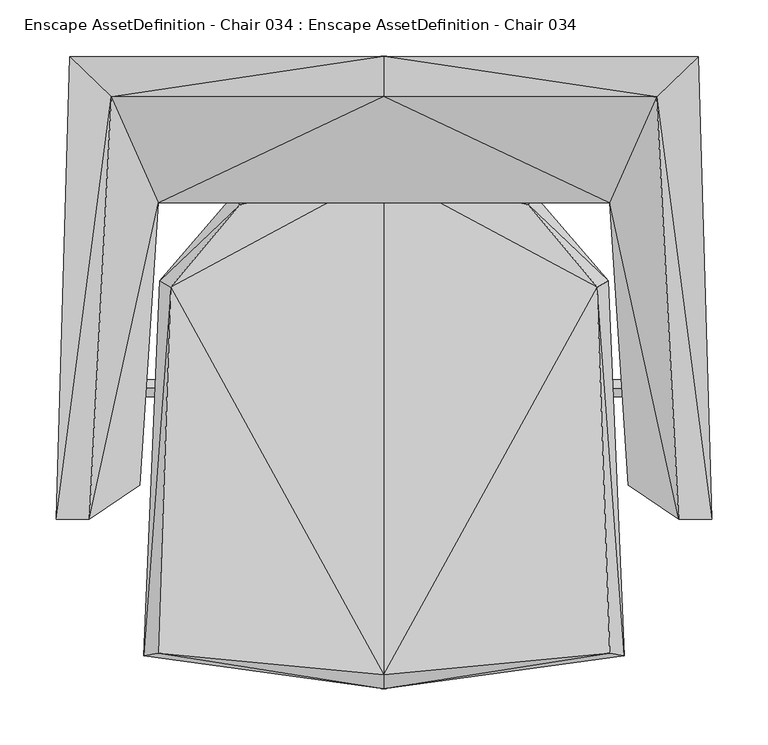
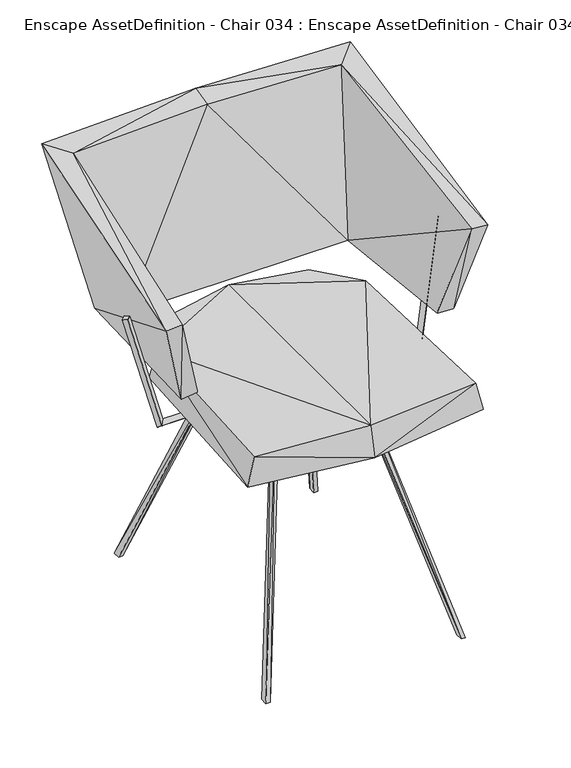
"""IFC4 building model written with IfcOpenShell, lengths in millimetres: geographic element geometry, Enscape AssetDefinition - Chair 034 : Enscape AssetDefinition - Chair 034."""

from ifc_helpers import new_model, si_unit, origin, place, context, project, spatial, triangles, source, transform, mapped, element, save


def enscape_assetdefinition_chair_034_enscape_assetdefinition_23db250a(model_context):
    return source(origin(), model_context, "Body", "Tessellation", [
        triangles([(128.4109937, 163.0650104, 480.3420104), (-189.6599895, 89.9270055, 482.3930117), (0.0, 191.7660019, 479.0729745), (201.0419982, -235.8320077, 479.2829907), (189.6599895, 89.9270055, 482.3930117), (213.6310009, -237.997991, 425.9890054), (0.0, -267.3630046, 425.8819988), (0.0, -254.892999, 480.2840198), (-201.0419982, -235.8320077, 479.2829907), (-213.6310009, -237.997991, 425.9890054), (199.4599909, 95.7430022, 428.5239887), (-128.4109937, 163.0650104, 480.3420104), (-199.4599909, 95.7430022, 428.5239887), (-133.390995, 172.6999964, 426.7540023), (0.0, 198.9230142, 425.8030066), (133.390995, 172.6999964, 426.7540023), (247.8179948, -86.8439996, 518.4469883), (262.2379904, -116.7860038, 681.7549707), (291.7009812, -116.4589979, 679.1200298), (218.2630038, -86.9129998, 520.8670077), (217.271004, -86.2420015, 517.2730047), (246.8270124, -86.1800049, 514.8520042), (200.6669848, 164.8239873, 510.9639785), (237.514009, 201.8090117, 510.9639785), (0.0, 295.3810073, 793.2059441), (279.5610064, 295.0069931, 784.329015), (242.6689995, 259.3060109, 775.0319807), (0.0, 201.7480053, 510.9620164), (0.0, 259.680988, 783.9090551), (0.0, 164.8609945, 510.9620164), (-291.7009812, -116.4589979, 679.1200298), (-237.514009, 201.8090117, 510.9639785), (-246.8270124, -86.1800049, 514.8520042), (-200.6669848, 164.8239873, 510.9639785), (-279.5610064, 295.0069931, 784.329015), (-242.6689995, 259.3060109, 775.0319807), (-217.271004, -86.2420015, 517.2730047), (-218.2630038, -86.9129998, 520.8670077), (-247.8179948, -86.8439996, 518.4469883), (-262.2379904, -116.7860038, 681.7549707), (180.8810014, -237.9740099, 0.0), (173.217988, -224.7000019, 0.0), (180.8829998, -224.6980034, 0.0), (85.6380049, -86.2780004, 395.6410031), (83.0499998, -95.9369948, 408.4479976), (173.2150085, -237.9750092, 0.0), (85.6380049, 86.2780004, 395.6410031), (78.1519975, -86.6690012, 393.9769695), (78.1519975, 86.6690012, 393.9769695), (173.217988, 224.7000019, 0.0), (75.496005, -95.9309995, 407.0590199), (75.496005, 95.9309995, 407.0590199), (83.0499998, 95.9369948, 408.4479976), (173.2150085, 237.9750092, 0.0), (180.8829998, 224.6980034, 0.0), (180.8810014, 237.9740099, 0.0), (-75.496005, 95.9309995, 407.0590199), (-83.0499998, 95.9369948, 408.4479976), (-78.1519975, 86.6690012, 393.9769695), (-75.496005, -95.9309995, 407.0590199), (-173.2150085, 237.9750092, 0.0), (-180.8810014, 237.9740099, 0.0), (-78.1519975, -86.6690012, 393.9769695), (-85.6380049, -86.2780004, 395.6410031), (-180.8829998, 224.6980034, 0.0), (-85.6380049, 86.2780004, 395.6410031), (-173.217988, -224.7000019, 0.0), (-173.2150085, -237.9750092, 0.0), (-180.8810014, -237.9740099, 0.0), (-83.0499998, -95.9369948, 408.4479976), (-180.8829998, -224.6980034, 0.0), (-173.217988, 224.7000019, 0.0), (-165.0249925, 82.121995, 412.371995), (-157.0770038, 74.1539948, 405.4440022), (-165.0249925, -82.121995, 412.371995), (-149.120004, -66.1840007, 412.371995), (165.0249925, 82.121995, 412.371995), (-157.0770038, -74.1539948, 405.4440022), (-149.120004, 66.1840007, 412.371995), (-157.0770038, 74.1539948, 419.2999878), (149.120004, 66.1840007, 412.371995), (157.0770038, -74.1539948, 405.4440022), (157.0770038, 74.1539948, 405.4440022), (149.120004, -66.1840007, 412.371995), (157.0770038, 74.1539948, 419.2999878), (-157.0770038, -74.1539948, 419.2999878), (157.0770038, -74.1539948, 419.2999878), (165.0249925, -82.121995, 412.371995), (157.0770038, 0.0, 405.9060016), (157.0770038, 0.0, 418.8379884), (157.0770038, -7.4669997, 412.371995), (230.2930108, -0.004, 418.8089931), (234.5930027, 7.4639998, 412.3520107), (157.0770038, 7.4669997, 412.371995), (279.6039907, 35.3810004, 612.4569477), (286.8619779, 28.7180009, 611.754011), (240.5479989, 0.005, 405.9390301), (281.6180029, 20.6700001, 614.055978), (236.2470078, -7.4639998, 412.3929966), (274.3599976, 27.3329996, 614.7590601), (-157.0770038, 0.0, 405.9060016), (-157.0770038, 7.4669997, 412.371995), (-236.2470078, -7.4639998, 412.3929966), (-240.5479989, 0.005, 405.9390301), (-234.5930027, 7.4639998, 412.3520107), (-286.8619779, 28.7180009, 611.754011), (-157.0770038, -7.4669997, 412.371995), (-157.0770038, 0.0, 418.8379884), (-230.2930108, -0.004, 418.8089931), (-279.6039907, 35.3810004, 612.4569477), (-274.3599976, 27.3329996, 614.7590601), (-281.6180029, 20.6700001, 614.055978)], [[103, 112, 106], [111, 106, 112], [111, 110, 106], [109, 111, 112], [109, 112, 103], [109, 110, 111], [107, 109, 103], [107, 108, 109], [102, 109, 108], [109, 105, 110], [102, 105, 109], [105, 106, 110], [105, 104, 106], [103, 106, 104], [101, 102, 108], [101, 104, 105], [101, 107, 103], [101, 108, 107], [101, 105, 102], [101, 103, 104], [98, 100, 92], [98, 92, 99], [92, 100, 95], [96, 98, 99], [96, 95, 100], [96, 100, 98], [96, 99, 97], [93, 95, 96], [93, 96, 97], [92, 95, 93], [92, 93, 94], [92, 94, 90], [91, 99, 92], [91, 92, 90], [90, 94, 89], [93, 97, 89], [89, 97, 99], [90, 89, 91], [93, 89, 94], [89, 99, 91], [78, 88, 75], [75, 88, 87], [75, 87, 86], [86, 87, 84], [84, 87, 85], [87, 88, 77], [87, 77, 85], [78, 82, 88], [82, 77, 88], [82, 83, 77], [82, 84, 81], [82, 81, 83], [84, 85, 81], [80, 81, 85], [80, 79, 81], [86, 79, 80], [79, 83, 81], [86, 76, 79], [76, 84, 82], [86, 84, 76], [76, 82, 78], [79, 74, 83], [76, 78, 74], [74, 77, 83], [76, 74, 79], [86, 80, 73], [78, 75, 73], [74, 73, 77], [73, 80, 85], [86, 73, 75], [78, 73, 74], [73, 85, 77], [62, 72, 65], [64, 71, 69], [64, 69, 70], [69, 71, 67], [64, 67, 71], [70, 69, 68], [69, 67, 68], [64, 63, 67], [63, 68, 67], [66, 65, 72], [62, 65, 66], [66, 64, 70], [66, 63, 64], [62, 66, 58], [66, 70, 58], [62, 61, 72], [61, 62, 58], [59, 72, 61], [66, 59, 63], [66, 72, 59], [63, 60, 68], [70, 68, 60], [59, 60, 63], [59, 57, 60], [57, 58, 70], [61, 58, 57], [59, 61, 57], [57, 70, 60], [47, 55, 56], [56, 55, 50], [47, 50, 55], [56, 50, 54], [53, 56, 54], [47, 56, 53], [53, 54, 52], [53, 52, 51], [47, 49, 50], [49, 52, 54], [51, 52, 49], [49, 54, 50], [49, 47, 44], [49, 44, 48], [51, 49, 48], [44, 43, 42], [44, 42, 48], [48, 42, 46], [48, 46, 51], [45, 44, 47], [53, 51, 45], [46, 45, 51], [45, 47, 53], [41, 46, 42], [46, 41, 45], [41, 43, 44], [41, 42, 43], [41, 44, 45], [40, 31, 39], [38, 40, 39], [33, 37, 38], [39, 33, 38], [40, 38, 34], [38, 37, 34], [33, 34, 37], [34, 36, 40], [31, 40, 36], [31, 36, 35], [33, 32, 34], [32, 33, 39], [35, 32, 31], [31, 32, 39], [28, 34, 32], [28, 30, 34], [29, 36, 34], [29, 34, 30], [32, 35, 25], [25, 35, 36], [32, 25, 28], [25, 36, 29], [25, 24, 28], [25, 26, 24], [25, 29, 27], [25, 27, 26], [23, 30, 28], [23, 27, 29], [23, 28, 24], [23, 29, 30], [22, 21, 23], [22, 23, 24], [23, 21, 20], [20, 21, 22], [18, 27, 23], [23, 20, 18], [27, 18, 19], [24, 26, 19], [27, 19, 26], [17, 19, 18], [22, 17, 20], [22, 24, 17], [20, 17, 18], [17, 24, 19], [12, 15, 14], [15, 16, 11], [13, 14, 15], [13, 12, 14], [7, 15, 11], [11, 6, 7], [13, 15, 7], [4, 7, 6], [7, 10, 13], [7, 9, 10], [13, 2, 12], [2, 13, 10], [2, 10, 9], [9, 8, 2], [7, 8, 9], [4, 8, 7], [6, 11, 5], [8, 4, 5], [6, 5, 4], [8, 3, 2], [12, 3, 15], [3, 8, 5], [3, 12, 2], [1, 5, 11], [1, 16, 15], [1, 11, 16], [3, 5, 1], [1, 15, 3]]),
    ])


if __name__ == "__main__":
    model = new_model("IFC4")
    model_context = context("Model", 3, world=origin())
    ifc_project = project(units=[si_unit("LENGTHUNIT", "METRE", prefix="MILLI")], contexts=[model_context])
    site = spatial("IfcSite", under=ifc_project)
    building = spatial("IfcBuilding", under=site)
    placement = place(None, origin())
    enscape_assetdefinition_chair_034_enscape_assetdefinition_shape = enscape_assetdefinition_chair_034_enscape_assetdefinition_23db250a(model_context)
    element("IfcGeographicElement", 1, ObjectType="Enscape AssetDefinition - Chair 034 : Enscape AssetDefinition - Chair 034", at=placement, inside=building, context=model_context, shape_type="MappedRepresentation", body=[
        mapped(enscape_assetdefinition_chair_034_enscape_assetdefinition_shape, transform((0.0, 0.0, 0.0), x_axis=(1.0, 0.0, 0.0), y_axis=(0.0, 1.0, 0.0), z_axis=(0.0, 0.0, 1.0))),
    ])
    save(model, "model.ifc")
